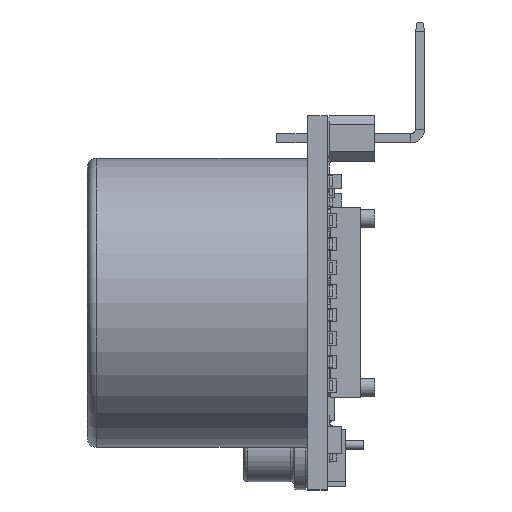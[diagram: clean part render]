
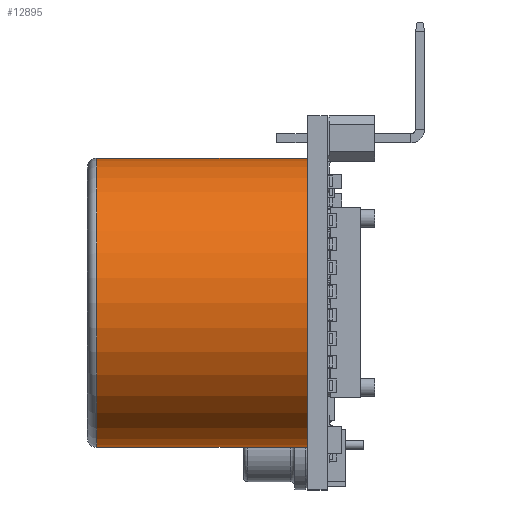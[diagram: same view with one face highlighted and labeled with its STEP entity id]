
A CAD part, left-side view. The second image highlights one B-rep face of the part: STEP entity #12895.
In plain terms, the highlighted cylindrical face has radius 7.95 mm (diameter 15.9 mm), a partial arc.
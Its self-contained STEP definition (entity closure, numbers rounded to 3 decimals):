
#211 = DIRECTION ( 'NONE',  ( 0., -1., 0. ) ) ;
#1735 = LINE ( 'NONE', #39810, #28539 ) ;
#4140 = LINE ( 'NONE', #57005, #31843 ) ;
#4342 = DIRECTION ( 'NONE',  ( 0., 0., -1. ) ) ;
#4850 = CARTESIAN_POINT ( 'NONE',  ( -12.8, 12.7, -7.95 ) ) ;
#6240 = DIRECTION ( 'NONE',  ( 0., 0., -1. ) ) ;
#6269 = AXIS2_PLACEMENT_3D ( 'NONE', #54310, #211, #6240 ) ;
#8566 = FACE_OUTER_BOUND ( 'NONE', #66069, .T. ) ;
#8589 = EDGE_CURVE ( 'NONE', #66182, #54576, #50310, .T. ) ;
#11168 = DIRECTION ( 'NONE',  ( 0., -1., 0. ) ) ;
#12700 = CYLINDRICAL_SURFACE ( 'NONE', #35300, 7.95 ) ;
#12895 = ADVANCED_FACE ( 'NONE', ( #8566 ), #12700, .T. ) ;
#19192 = VERTEX_POINT ( 'NONE', #22042 ) ;
#22042 = CARTESIAN_POINT ( 'NONE',  ( -12.8, 12.7, 7.95 ) ) ;
#26915 = VERTEX_POINT ( 'NONE', #4850 ) ;
#28539 = VECTOR ( 'NONE', #55243, 1000. ) ;
#31843 = VECTOR ( 'NONE', #35236, 1000. ) ;
#35236 = DIRECTION ( 'NONE',  ( 0., -1., 0. ) ) ;
#35300 = AXIS2_PLACEMENT_3D ( 'NONE', #43391, #11168, #38876 ) ;
#36467 = DIRECTION ( 'NONE',  ( 0., 1., 0. ) ) ;
#38876 = DIRECTION ( 'NONE',  ( 0., 0., -1. ) ) ;
#39810 = CARTESIAN_POINT ( 'NONE',  ( -12.8, 13.2, -7.95 ) ) ;
#41685 = CARTESIAN_POINT ( 'NONE',  ( -12.8, 1.1, -7.95 ) ) ;
#42115 = CIRCLE ( 'NONE', #6269, 7.95 ) ;
#43391 = CARTESIAN_POINT ( 'NONE',  ( -12.8, 13.2, 0. ) ) ;
#46474 = EDGE_CURVE ( 'NONE', #26915, #66182, #1735, .T. ) ;
#48505 = ORIENTED_EDGE ( 'NONE', *, *, #46474, .T. ) ;
#50310 = CIRCLE ( 'NONE', #51114, 7.95 ) ;
#51114 = AXIS2_PLACEMENT_3D ( 'NONE', #68604, #36467, #4342 ) ;
#51789 = ORIENTED_EDGE ( 'NONE', *, *, #59853, .T. ) ;
#54310 = CARTESIAN_POINT ( 'NONE',  ( -12.8, 12.7, 0. ) ) ;
#54353 = CARTESIAN_POINT ( 'NONE',  ( -12.8, 1.1, 7.95 ) ) ;
#54576 = VERTEX_POINT ( 'NONE', #54353 ) ;
#55243 = DIRECTION ( 'NONE',  ( 0., -1., 0. ) ) ;
#57005 = CARTESIAN_POINT ( 'NONE',  ( -12.8, 13.2, 7.95 ) ) ;
#59853 = EDGE_CURVE ( 'NONE', #19192, #26915, #42115, .T. ) ;
#60590 = EDGE_CURVE ( 'NONE', #19192, #54576, #4140, .T. ) ;
#65051 = ORIENTED_EDGE ( 'NONE', *, *, #60590, .F. ) ;
#66069 = EDGE_LOOP ( 'NONE', ( #65051, #51789, #48505, #68614 ) ) ;
#66182 = VERTEX_POINT ( 'NONE', #41685 ) ;
#68604 = CARTESIAN_POINT ( 'NONE',  ( -12.8, 1.1, 0. ) ) ;
#68614 = ORIENTED_EDGE ( 'NONE', *, *, #8589, .T. ) ;
